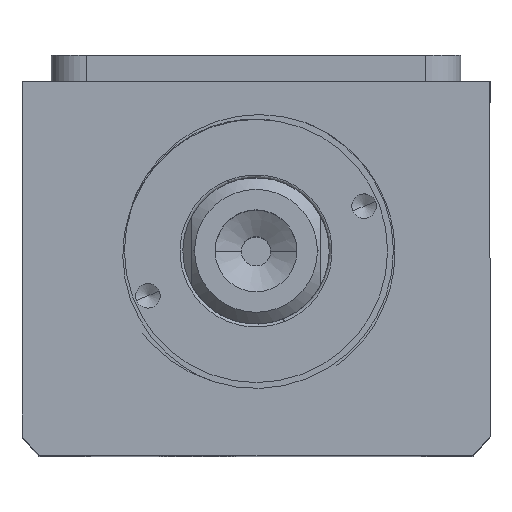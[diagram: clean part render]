
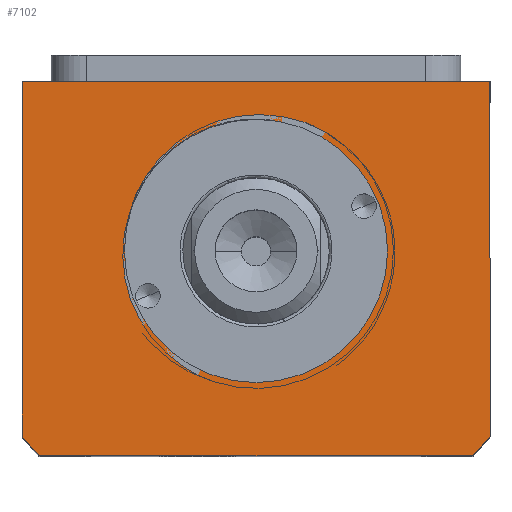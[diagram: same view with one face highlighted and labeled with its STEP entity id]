
A CAD part, top view. The second image highlights one B-rep face of the part: STEP entity #7102.
In plain terms, the highlighted planar face has unit normal (0, 0, 1).
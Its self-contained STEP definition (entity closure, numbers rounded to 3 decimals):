
#225 = DIRECTION ( 'NONE',  ( 0., 0., 1. ) ) ;
#433 = EDGE_CURVE ( 'NONE', #3636, #6036, #7065, .T. ) ;
#526 = DIRECTION ( 'NONE',  ( 1., 0., 0. ) ) ;
#545 = AXIS2_PLACEMENT_3D ( 'NONE', #4998, #225, #5804 ) ;
#693 = EDGE_CURVE ( 'NONE', #5032, #10261, #6335, .T. ) ;
#751 = DIRECTION ( 'NONE',  ( 0., 0., 1. ) ) ;
#1170 = CIRCLE ( 'NONE', #5315, 51. ) ;
#1655 = EDGE_LOOP ( 'NONE', ( #10127, #5637, #5795, #9528, #6775, #4404 ) ) ;
#1768 = CARTESIAN_POINT ( 'NONE',  ( 40., -28.639, 100. ) ) ;
#1931 = CIRCLE ( 'NONE', #8961, 22.5 ) ;
#1961 = DIRECTION ( 'NONE',  ( 0., -1., 0. ) ) ;
#2074 = LINE ( 'NONE', #8779, #6092 ) ;
#2313 = CARTESIAN_POINT ( 'NONE',  ( -40., 32., 100. ) ) ;
#2334 = VERTEX_POINT ( 'NONE', #10213 ) ;
#3112 = PLANE ( 'NONE',  #3381 ) ;
#3354 = EDGE_CURVE ( 'NONE', #7246, #5032, #1170, .T. ) ;
#3381 = AXIS2_PLACEMENT_3D ( 'NONE', #6312, #751, #6350 ) ;
#3386 = CARTESIAN_POINT ( 'NONE',  ( 37.094, -32., 100. ) ) ;
#3612 = CARTESIAN_POINT ( 'NONE',  ( 0., 3., 100. ) ) ;
#3636 = VERTEX_POINT ( 'NONE', #6227 ) ;
#3719 = DIRECTION ( 'NONE',  ( 0., 0., 1. ) ) ;
#3733 = CARTESIAN_POINT ( 'NONE',  ( -40., 32., 100. ) ) ;
#3788 = LINE ( 'NONE', #3733, #7294 ) ;
#3805 = CARTESIAN_POINT ( 'NONE',  ( -22.5, 3., 100. ) ) ;
#4188 = VECTOR ( 'NONE', #6724, 1000. ) ;
#4327 = VERTEX_POINT ( 'NONE', #8676 ) ;
#4397 = DIRECTION ( 'NONE',  ( 1., 0., 0. ) ) ;
#4404 = ORIENTED_EDGE ( 'NONE', *, *, #8108, .T. ) ;
#4435 = DIRECTION ( 'NONE',  ( 1., 0., 0. ) ) ;
#4535 = CARTESIAN_POINT ( 'NONE',  ( 0., 3., 100. ) ) ;
#4998 = CARTESIAN_POINT ( 'NONE',  ( 0., 3., 100. ) ) ;
#5032 = VERTEX_POINT ( 'NONE', #1768 ) ;
#5276 = CARTESIAN_POINT ( 'NONE',  ( 40., 32., 100. ) ) ;
#5314 = DIRECTION ( 'NONE',  ( 0., 0., 1. ) ) ;
#5315 = AXIS2_PLACEMENT_3D ( 'NONE', #3612, #9222, #4435 ) ;
#5560 = EDGE_CURVE ( 'NONE', #2334, #7246, #2074, .T. ) ;
#5637 = ORIENTED_EDGE ( 'NONE', *, *, #9911, .T. ) ;
#5795 = ORIENTED_EDGE ( 'NONE', *, *, #5560, .T. ) ;
#5804 = DIRECTION ( 'NONE',  ( 1., 0., 0. ) ) ;
#5939 = VECTOR ( 'NONE', #1961, 1000. ) ;
#6036 = VERTEX_POINT ( 'NONE', #3805 ) ;
#6092 = VECTOR ( 'NONE', #8819, 1000. ) ;
#6195 = LINE ( 'NONE', #7554, #5939 ) ;
#6227 = CARTESIAN_POINT ( 'NONE',  ( 22.5, 3., 100. ) ) ;
#6312 = CARTESIAN_POINT ( 'NONE',  ( 0., 0., 100. ) ) ;
#6335 = LINE ( 'NONE', #8334, #4188 ) ;
#6350 = DIRECTION ( 'NONE',  ( 1., 0., 0. ) ) ;
#6394 = ORIENTED_EDGE ( 'NONE', *, *, #433, .F. ) ;
#6724 = DIRECTION ( 'NONE',  ( 0., 1., 0. ) ) ;
#6775 = ORIENTED_EDGE ( 'NONE', *, *, #693, .T. ) ;
#6780 = EDGE_CURVE ( 'NONE', #6036, #3636, #1931, .T. ) ;
#6864 = EDGE_LOOP ( 'NONE', ( #6394, #8253 ) ) ;
#6922 = DIRECTION ( 'NONE',  ( -1., 0., 0. ) ) ;
#7063 = VERTEX_POINT ( 'NONE', #2313 ) ;
#7065 = CIRCLE ( 'NONE', #8329, 22.5 ) ;
#7088 = CIRCLE ( 'NONE', #545, 51. ) ;
#7102 = ADVANCED_FACE ( 'NONE', ( #9424, #7301 ), #3112, .T. ) ;
#7246 = VERTEX_POINT ( 'NONE', #3386 ) ;
#7294 = VECTOR ( 'NONE', #6922, 1000. ) ;
#7301 = FACE_OUTER_BOUND ( 'NONE', #1655, .T. ) ;
#7554 = CARTESIAN_POINT ( 'NONE',  ( -40., 32., 100. ) ) ;
#7950 = EDGE_CURVE ( 'NONE', #7063, #4327, #6195, .T. ) ;
#8108 = EDGE_CURVE ( 'NONE', #10261, #7063, #3788, .T. ) ;
#8253 = ORIENTED_EDGE ( 'NONE', *, *, #6780, .F. ) ;
#8329 = AXIS2_PLACEMENT_3D ( 'NONE', #4535, #3719, #4397 ) ;
#8334 = CARTESIAN_POINT ( 'NONE',  ( 40., 32., 100. ) ) ;
#8676 = CARTESIAN_POINT ( 'NONE',  ( -40., -28.639, 100. ) ) ;
#8779 = CARTESIAN_POINT ( 'NONE',  ( -40., -32., 100. ) ) ;
#8819 = DIRECTION ( 'NONE',  ( 1., 0., 0. ) ) ;
#8961 = AXIS2_PLACEMENT_3D ( 'NONE', #10076, #5314, #526 ) ;
#9222 = DIRECTION ( 'NONE',  ( 0., 0., 1. ) ) ;
#9424 = FACE_BOUND ( 'NONE', #6864, .T. ) ;
#9528 = ORIENTED_EDGE ( 'NONE', *, *, #3354, .T. ) ;
#9911 = EDGE_CURVE ( 'NONE', #4327, #2334, #7088, .T. ) ;
#10076 = CARTESIAN_POINT ( 'NONE',  ( 0., 3., 100. ) ) ;
#10127 = ORIENTED_EDGE ( 'NONE', *, *, #7950, .T. ) ;
#10213 = CARTESIAN_POINT ( 'NONE',  ( -37.094, -32., 100. ) ) ;
#10261 = VERTEX_POINT ( 'NONE', #5276 ) ;
